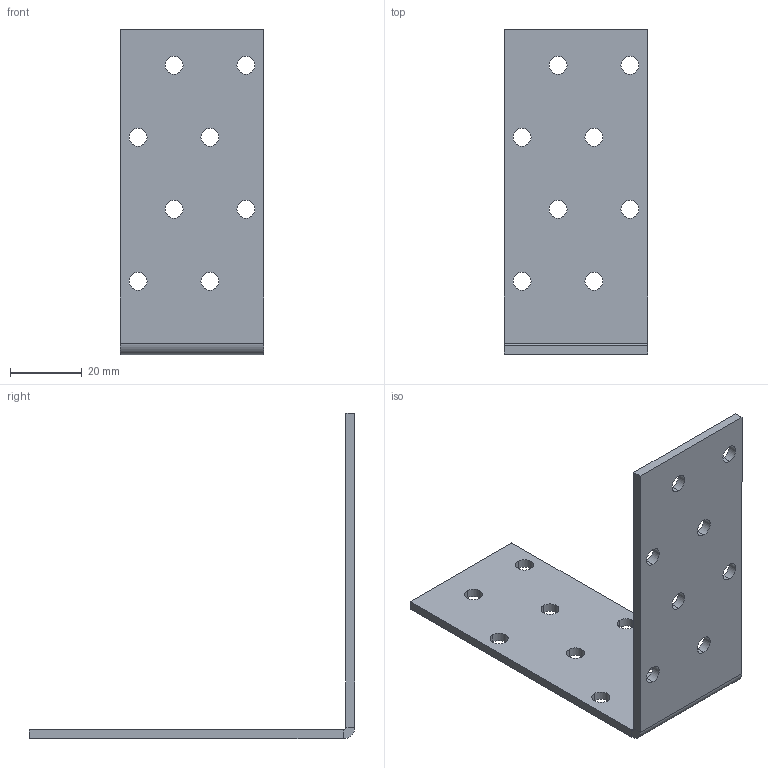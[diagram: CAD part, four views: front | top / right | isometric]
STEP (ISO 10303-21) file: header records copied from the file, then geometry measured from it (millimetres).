
FILE_DESCRIPTION (( 'STEP AP203' ), '1' );
FILE_NAME ('10513.STEP', '2020-04-20T11:08:09', ( '' ), ( '' ), 'SwSTEP 2.0', 'SolidWorks 2013', '' );
FILE_SCHEMA (( 'CONFIG_CONTROL_DESIGN' ));
Length unit declared in the file: millimetre
Products named in the file (1): 10513
Bounding box: 40 x 90.46 x 90.46 mm (x, y, z)
Volume: 16971.7 mm3; surface area: 15293.5 mm2
Topology: 1 solids, 1 shells, 46 faces, 124 edges, 80 vertices
Faces by surface type: cylinder 34, plane 12
Entity records: 1613 total; most frequent: DIRECTION 286, CARTESIAN_POINT 251, ORIENTED_EDGE 248, EDGE_CURVE 124, AXIS2_PLACEMENT_3D 115, VERTEX_POINT 80, EDGE_LOOP 78, CIRCLE 68
